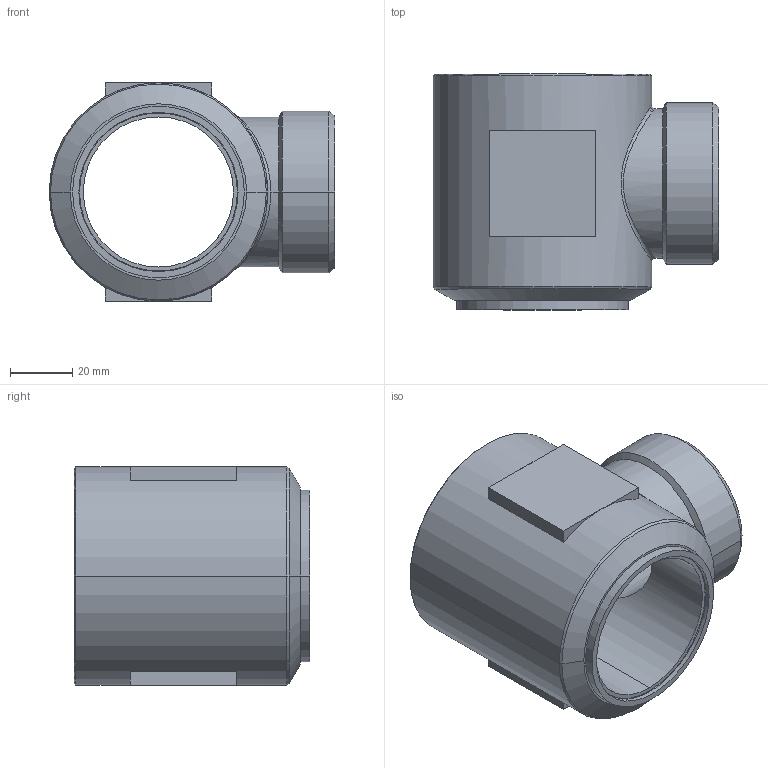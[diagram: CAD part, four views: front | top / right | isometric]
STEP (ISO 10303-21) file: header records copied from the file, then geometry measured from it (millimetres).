
FILE_DESCRIPTION((''),'2;1');
FILE_NAME('101323.stp','2007-10-30T15:38:56',(''),(''),'AutoCAD STEP 2000i','AutoCAD 2000i',', , ');
FILE_SCHEMA(('CONFIG_CONTROL_DESIGN'));
Length unit declared in the file: millimetre
Products named in the file (2): 101323.0; 1094#0
Assembly tree (1 placements, depth 2):
  101323.0
    1094#0
Bounding box: 91.5 x 75.5 x 70 mm (x, y, z)
Volume: 163859.5 mm3; surface area: 38204.9 mm2
Topology: 1 solids, 1 shells, 55 faces, 127 edges, 79 vertices
Faces by surface type: plane 20, cylinder 16, cone 14, bspline 5
Entity records: 2126 total; most frequent: CARTESIAN_POINT 741, DIRECTION 285, ORIENTED_EDGE 254, EDGE_CURVE 127, AXIS2_PLACEMENT_3D 115, VERTEX_POINT 79, EDGE_LOOP 64, CIRCLE 63
